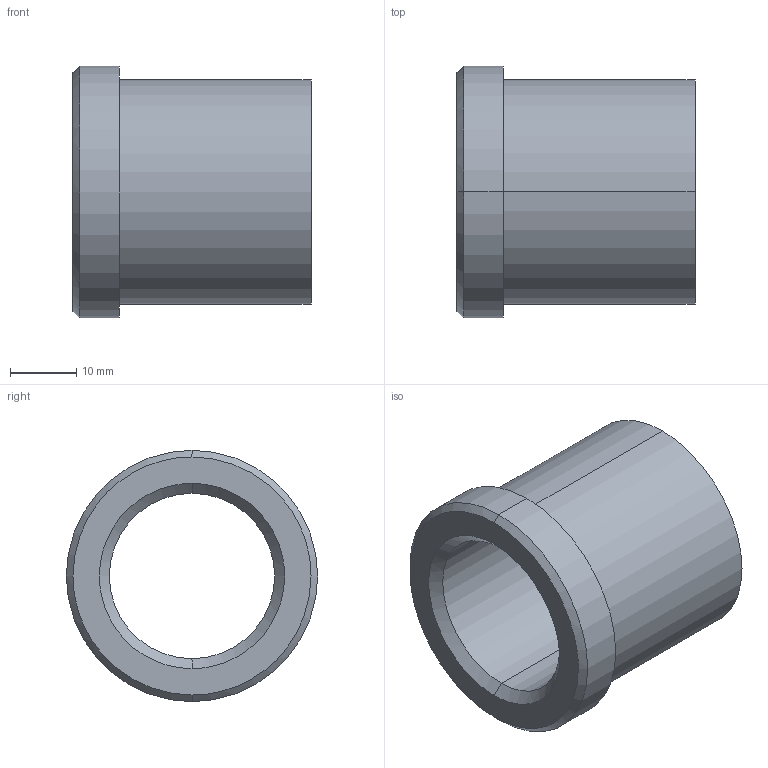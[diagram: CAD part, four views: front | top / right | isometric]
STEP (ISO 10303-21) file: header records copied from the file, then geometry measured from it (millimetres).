
FILE_DESCRIPTION(('CATIA V5 STEP Exchange'),'2;1');
FILE_NAME('C:\Users\Utente\Desktop\IO LAVORO\3D X SITO CF\X SITO\PLASTICA\353\353-25X36.stp','2021-05-12T18:46:55+00:00',('none'),('none'),'CATIA Version 5 Release 20 GA (IN-10)','CATIA V5 STEP AP203','none');
FILE_SCHEMA(('CONFIG_CONTROL_DESIGN'));
Length unit declared in the file: millimetre
Products named in the file (1): 353-25X36
Bounding box: 36 x 38 x 38 mm (x, y, z)
Volume: 16376.7 mm3; surface area: 7844.2 mm2
Topology: 1 solids, 1 shells, 15 faces, 48 edges, 36 vertices
Faces by surface type: cylinder 6, cone 4, plane 3, torus 2
Entity records: 680 total; most frequent: CARTESIAN_POINT 212, ORIENTED_EDGE 96, DIRECTION 70, EDGE_CURVE 48, AXIS2_PLACEMENT_3D 46, VERTEX_POINT 36, CIRCLE 30, EDGE_LOOP 18
